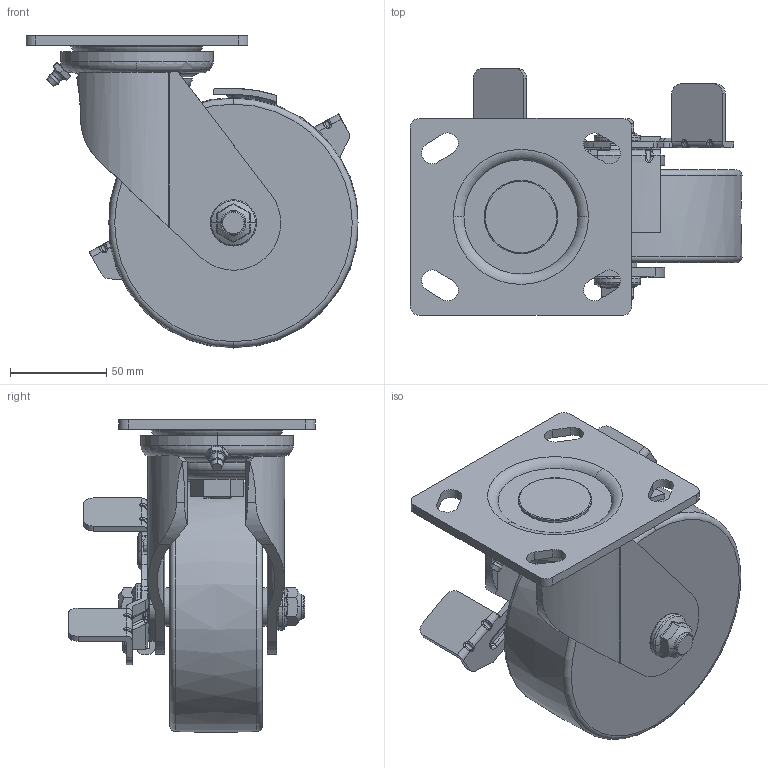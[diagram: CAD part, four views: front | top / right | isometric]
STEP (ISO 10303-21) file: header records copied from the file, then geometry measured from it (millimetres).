
FILE_DESCRIPTION((''),'2;1');
FILE_NAME('PM-130-BSF-MCD.stp','2013-04-30T11:02:29',(''),(''),'Mechanical Desktop 2009','Mechanical Desktop 2009',', , ');
FILE_SCHEMA(('CONFIG_CONTROL_DESIGN'));
Length unit declared in the file: millimetre
Products named in the file (2): PM-130-BSF-MCD; SF PLATE
Assembly tree (1 placements, depth 2):
  PM-130-BSF-MCD
    SF PLATE
Bounding box: 172.05 x 128 x 161.95 mm (x, y, z)
Volume: 881310.4 mm3; surface area: 132212.6 mm2
Topology: 1 solids, 1 shells, 647 faces, 1667 edges, 1004 vertices
Faces by surface type: bspline 208, cylinder 197, plane 176, torus 46, cone 20
Entity records: 28443 total; most frequent: CARTESIAN_POINT 13399, ORIENTED_EDGE 3262, DIRECTION 3037, EDGE_CURVE 1631, AXIS2_PLACEMENT_3D 1207, VERTEX_POINT 1002, EDGE_LOOP 685, CIRCLE 649
